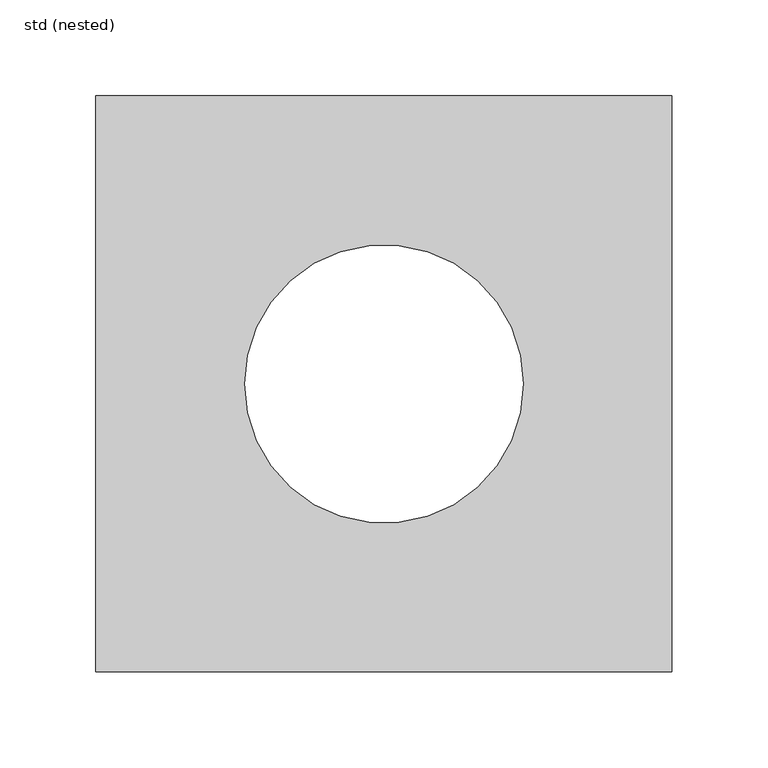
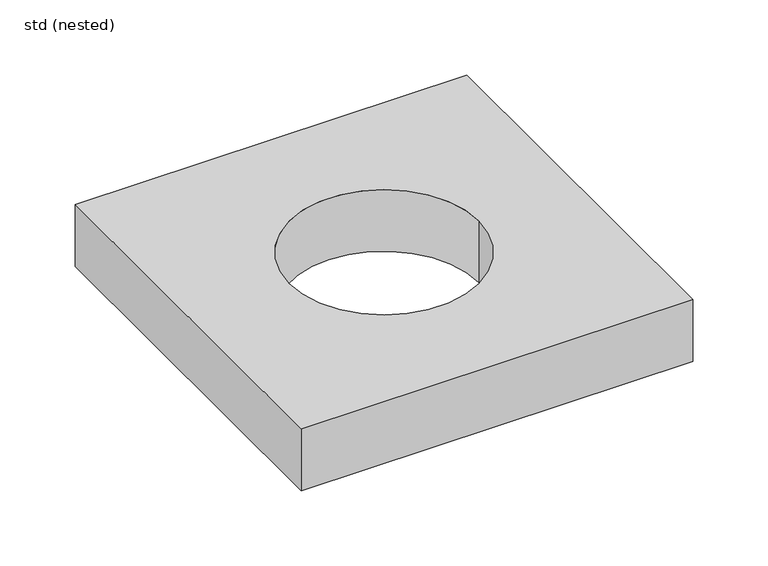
"""IFC4 building model written with IfcOpenShell, lengths in millimetres: sanitary terminal geometry, ZZZ_do not use_PF_CG_WPB_compensation element for Passavant Jet_ACO : std (nested)."""

from ifc_helpers import new_model, si_unit, point, origin, origin_with_axes, origin_2d, place, context, project, spatial, polyline, circle_curve, trimmed, segment, composite_curve, outline, extrude, source, transform, mapped, element, save


def std_nested_2427ce80(model_context):
    return source(origin(), model_context, "Body", "SweptSolid", [
        extrude(outline(polyline([(150.0, 150.0), (150.0, -150.0), (-150.0, -150.0), (-150.0, 150.0), (150.0, 150.0)]), holes=[composite_curve([segment(trimmed(circle_curve(origin_2d(), 72.5), [point((-72.5, 0.0))], [point((72.5, 0.0))], True, "CARTESIAN"), True, "CONTINUOUS"), segment(trimmed(circle_curve(origin_2d(), 72.5), [point((72.5, 0.0))], [point((-72.5, 0.0))], True, "CARTESIAN"), True, "CONTINUOUS")], self_intersect=False)]), origin_with_axes(), (0.0, 0.0, 1.0), 50.0),
    ])


if __name__ == "__main__":
    model = new_model("IFC4")
    model_context = context("Model", 3, world=origin())
    ifc_project = project(units=[si_unit("LENGTHUNIT", "METRE", prefix="MILLI")], contexts=[model_context])
    site = spatial("IfcSite", under=ifc_project)
    building = spatial("IfcBuilding", under=site)
    placement = place(None, origin())
    std_nested_shape = std_nested_2427ce80(model_context)
    element("IfcSanitaryTerminal", 1, ObjectType="ZZZ_do not use_PF_CG_WPB_compensation element for Passavant Jet_ACO : std (nested)", at=placement, inside=building, context=model_context, shape_type="MappedRepresentation", body=[
        mapped(std_nested_shape, transform((0.0, 0.0, 0.0), x_axis=(1.0, 0.0, 0.0), y_axis=(0.0, 1.0, 0.0), z_axis=(0.0, 0.0, 1.0))),
    ])
    save(model, "model.ifc")
